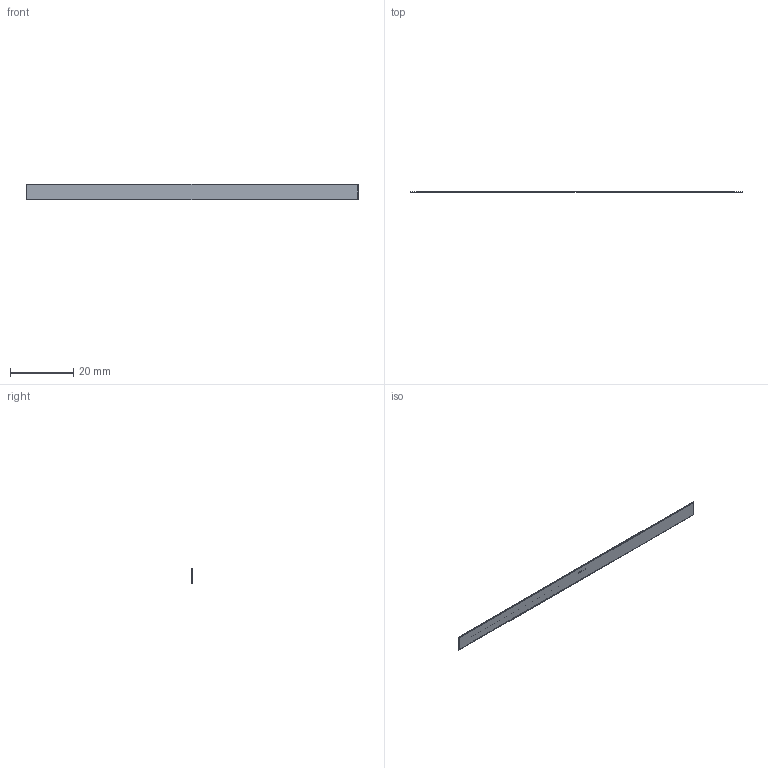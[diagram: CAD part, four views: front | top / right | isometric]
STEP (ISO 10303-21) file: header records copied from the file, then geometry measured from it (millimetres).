
FILE_DESCRIPTION (( 'STEP AP203' ), '1' );
FILE_NAME ('SI80-NI-100.STEP', '2025-03-25T11:46:25', ( '' ), ( '' ), 'SwSTEP 2.0', 'SolidWorks 2023', '' );
FILE_SCHEMA (( 'CONFIG_CONTROL_DESIGN' ));
Length unit declared in the file: millimetre
Products named in the file (1): SI80-NI-100
Bounding box: 105 x 0.26 x 5 mm (x, y, z)
Volume: 135.6 mm3; surface area: 1108.2 mm2
Topology: 1 solids, 1 shells, 129 faces, 324 edges, 216 vertices
Faces by surface type: plane 70, bspline 59
Entity records: 7589 total; most frequent: CARTESIAN_POINT 4817, ORIENTED_EDGE 648, DIRECTION 348, EDGE_CURVE 324, VERTEX_POINT 216, LINE 206, VECTOR 206, EDGE_LOOP 148
